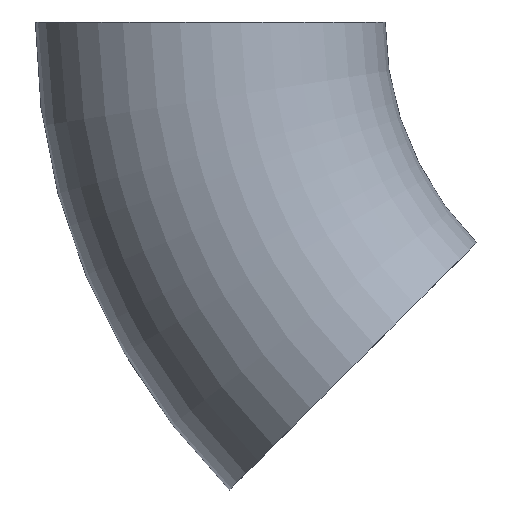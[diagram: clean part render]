
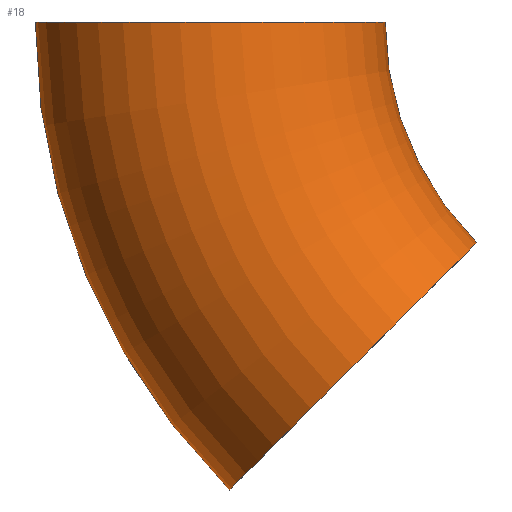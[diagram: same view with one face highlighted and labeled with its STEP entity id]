
A CAD part, front view. The second image highlights one B-rep face of the part: STEP entity #18.
In plain terms, the highlighted toroidal (fillet/blend) face has major radius 305 mm and minor radius 109.55 mm.
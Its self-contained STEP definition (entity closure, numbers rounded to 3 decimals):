
#7 = CARTESIAN_POINT ( 'NONE',  ( -305., 0., 0. ) ) ;
#9 = EDGE_CURVE ( 'NONE', #25, #165, #49, .T. ) ;
#18 = ADVANCED_FACE ( 'NONE', ( #125 ), #198, .T. ) ;
#23 = VERTEX_POINT ( 'NONE', #127 ) ;
#24 = CIRCLE ( 'NONE', #236, 109.55 ) ;
#25 = VERTEX_POINT ( 'NONE', #189 ) ;
#42 = ORIENTED_EDGE ( 'NONE', *, *, #128, .F. ) ;
#48 = VERTEX_POINT ( 'NONE', #246 ) ;
#49 = CIRCLE ( 'NONE', #118, 195.45 ) ;
#51 = DIRECTION ( 'NONE',  ( 0., 1., 0. ) ) ;
#52 = DIRECTION ( 'NONE',  ( 0., 1., 0. ) ) ;
#65 = ORIENTED_EDGE ( 'NONE', *, *, #9, .T. ) ;
#66 = DIRECTION ( 'NONE',  ( 0., 0., 1. ) ) ;
#72 = DIRECTION ( 'NONE',  ( 0., 0., 1. ) ) ;
#94 = DIRECTION ( 'NONE',  ( 0., 1., 0. ) ) ;
#95 = DIRECTION ( 'NONE',  ( 0., 0., 1. ) ) ;
#99 = EDGE_LOOP ( 'NONE', ( #207, #239, #65, #42 ) ) ;
#100 = AXIS2_PLACEMENT_3D ( 'NONE', #240, #51, #66 ) ;
#101 = AXIS2_PLACEMENT_3D ( 'NONE', #148, #191, #228 ) ;
#107 = CIRCLE ( 'NONE', #101, 109.55 ) ;
#111 = CARTESIAN_POINT ( 'NONE',  ( -195.45, 0., 0. ) ) ;
#118 = AXIS2_PLACEMENT_3D ( 'NONE', #213, #52, #72 ) ;
#125 = FACE_OUTER_BOUND ( 'NONE', #99, .T. ) ;
#126 = DIRECTION ( 'NONE',  ( 1., 0., 0. ) ) ;
#127 = CARTESIAN_POINT ( 'NONE',  ( -414.55, 0., 0. ) ) ;
#128 = EDGE_CURVE ( 'NONE', #23, #165, #24, .T. ) ;
#137 = CARTESIAN_POINT ( 'NONE',  ( 0., 0., 0. ) ) ;
#148 = CARTESIAN_POINT ( 'NONE',  ( -215.668, 0., -215.668 ) ) ;
#156 = EDGE_CURVE ( 'NONE', #48, #25, #107, .T. ) ;
#165 = VERTEX_POINT ( 'NONE', #111 ) ;
#183 = CIRCLE ( 'NONE', #214, 414.55 ) ;
#189 = CARTESIAN_POINT ( 'NONE',  ( -138.204, 0., -138.204 ) ) ;
#191 = DIRECTION ( 'NONE',  ( -0.707, 0., 0.707 ) ) ;
#198 = TOROIDAL_SURFACE ( 'NONE', #100, 305., 109.55 ) ;
#207 = ORIENTED_EDGE ( 'NONE', *, *, #235, .F. ) ;
#213 = CARTESIAN_POINT ( 'NONE',  ( 0., 0., 0. ) ) ;
#214 = AXIS2_PLACEMENT_3D ( 'NONE', #137, #94, #95 ) ;
#228 = DIRECTION ( 'NONE',  ( 0.707, 0., 0.707 ) ) ;
#235 = EDGE_CURVE ( 'NONE', #48, #23, #183, .T. ) ;
#236 = AXIS2_PLACEMENT_3D ( 'NONE', #7, #245, #126 ) ;
#239 = ORIENTED_EDGE ( 'NONE', *, *, #156, .T. ) ;
#240 = CARTESIAN_POINT ( 'NONE',  ( 0., 0., 0. ) ) ;
#245 = DIRECTION ( 'NONE',  ( 0., 0., 1. ) ) ;
#246 = CARTESIAN_POINT ( 'NONE',  ( -293.131, 0., -293.131 ) ) ;
